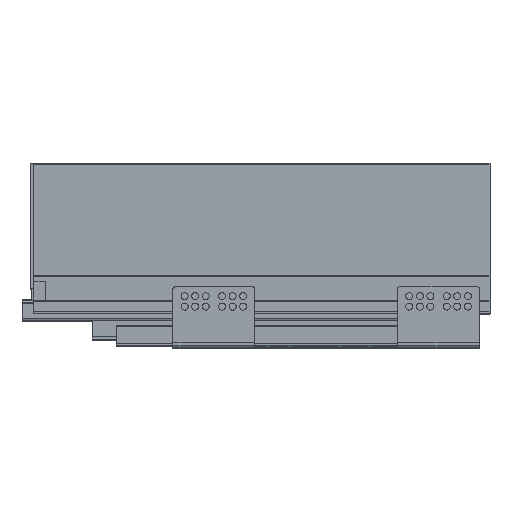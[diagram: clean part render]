
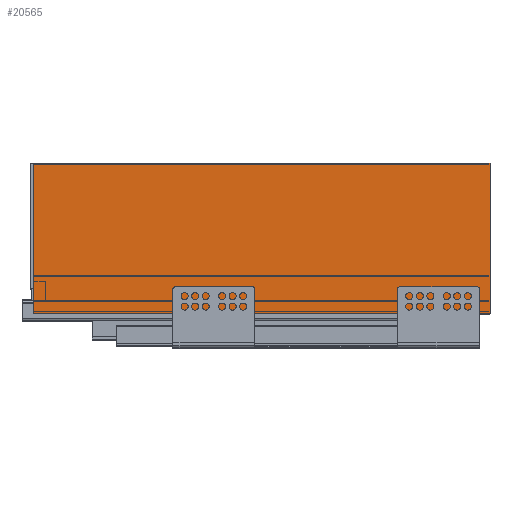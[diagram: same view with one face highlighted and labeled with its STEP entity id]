
A CAD part, top view. The second image highlights one B-rep face of the part: STEP entity #20565.
In plain terms, the highlighted planar face has unit normal (0, 0, 1).
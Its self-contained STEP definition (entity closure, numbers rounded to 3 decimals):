
#497=PLANE('',#21787);
#1352=FACE_OUTER_BOUND('',#2475,.T.);
#2475=EDGE_LOOP('',(#14394,#14395,#14396,#14397));
#3990=LINE('',#29615,#6339);
#3992=LINE('',#29619,#6341);
#3993=LINE('',#29621,#6342);
#3994=LINE('',#29622,#6343);
#6339=VECTOR('',#23879,10.);
#6341=VECTOR('',#23883,10.);
#6342=VECTOR('',#23884,10.);
#6343=VECTOR('',#23885,10.);
#9176=VERTEX_POINT('',#29612);
#9177=VERTEX_POINT('',#29614);
#9178=VERTEX_POINT('',#29618);
#9179=VERTEX_POINT('',#29620);
#11243=EDGE_CURVE('',#9176,#9177,#3990,.T.);
#11245=EDGE_CURVE('',#9176,#9178,#3992,.T.);
#11246=EDGE_CURVE('',#9178,#9179,#3993,.T.);
#11247=EDGE_CURVE('',#9179,#9177,#3994,.T.);
#14394=ORIENTED_EDGE('',*,*,#11245,.T.);
#14395=ORIENTED_EDGE('',*,*,#11246,.T.);
#14396=ORIENTED_EDGE('',*,*,#11247,.T.);
#14397=ORIENTED_EDGE('',*,*,#11243,.F.);
#20565=ADVANCED_FACE('',(#1352),#497,.F.);
#21787=AXIS2_PLACEMENT_3D('',#29617,#23881,#23882);
#23879=DIRECTION('',(1.,0.,0.));
#23881=DIRECTION('center_axis',(0.,0.,-1.));
#23882=DIRECTION('ref_axis',(0.,1.,0.));
#23883=DIRECTION('',(0.,-1.,0.));
#23884=DIRECTION('',(1.,0.,0.));
#23885=DIRECTION('',(0.,1.,0.));
#29612=CARTESIAN_POINT('',(0.,128.,535.));
#29614=CARTESIAN_POINT('',(390.,128.,535.));
#29615=CARTESIAN_POINT('',(0.,128.,535.));
#29617=CARTESIAN_POINT('Origin',(0.,0.,535.));
#29618=CARTESIAN_POINT('',(0.,0.,535.));
#29619=CARTESIAN_POINT('',(0.,128.,535.));
#29620=CARTESIAN_POINT('',(390.,0.,535.));
#29621=CARTESIAN_POINT('',(0.,0.,535.));
#29622=CARTESIAN_POINT('',(390.,128.,535.));
